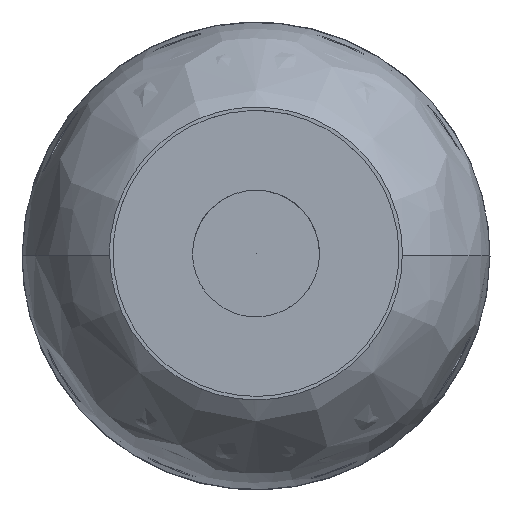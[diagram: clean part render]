
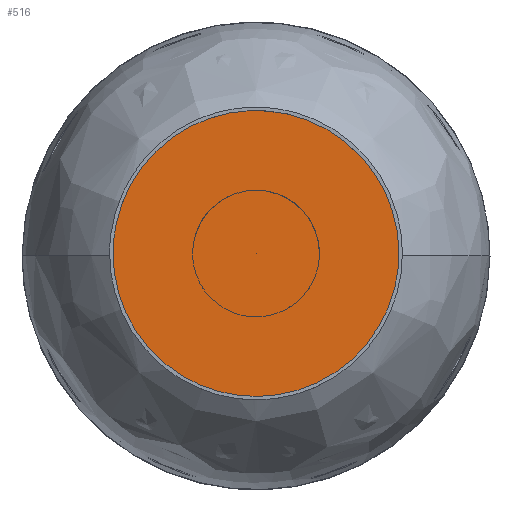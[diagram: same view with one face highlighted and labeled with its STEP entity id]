
A CAD part, top view. The second image highlights one B-rep face of the part: STEP entity #516.
In plain terms, the highlighted free-form (B-spline) face has degree [2, 1] with [9, 2] control points.
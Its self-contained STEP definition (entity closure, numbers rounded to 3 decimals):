
#182=B_SPLINE_CURVE_WITH_KNOTS('',1,(#9748,#9749),.UNSPECIFIED.,.F.,.F.,
(2,2),(82.621,144.621),.UNSPECIFIED.);
#516=ADVANCED_FACE('',(#778),#3344,.T.);
#778=FACE_OUTER_BOUND('',#1069,.T.);
#1069=EDGE_LOOP('',(#1955,#1956,#1957));
#1955=ORIENTED_EDGE('',*,*,#2543,.T.);
#1956=ORIENTED_EDGE('',*,*,#2534,.T.);
#1957=ORIENTED_EDGE('',*,*,#2534,.F.);
#2534=EDGE_CURVE('',#3196,#3195,#182,.T.);
#2543=EDGE_CURVE('',#3196,#3196,#2902,.T.);
#2902=(
BOUNDED_CURVE()
B_SPLINE_CURVE(2,(#9794,#9795,#9796,#9797,#9798,#9799,#9800,#9801,#9802),
 .UNSPECIFIED.,.T.,.F.)
B_SPLINE_CURVE_WITH_KNOTS((3,2,2,2,3),(0.,99.746,199.491,
299.237,398.982),.UNSPECIFIED.)
CURVE()
GEOMETRIC_REPRESENTATION_ITEM()
RATIONAL_B_SPLINE_CURVE((1.,0.707,1.,0.707,1.,0.707,
1.,0.707,1.))
REPRESENTATION_ITEM('')
);
#3195=VERTEX_POINT('',#9740);
#3196=VERTEX_POINT('',#9741);
#3344=(
BOUNDED_SURFACE()
B_SPLINE_SURFACE(2,1,((#9665,#9666),(#9667,#9668),(#9669,#9670),(#9671,
#9672),(#9673,#9674),(#9675,#9676),(#9677,#9678),(#9679,#9680),(#9681,#9682)),
 .UNSPECIFIED.,.T.,.F.,.F.)
B_SPLINE_SURFACE_WITH_KNOTS((3,2,2,2,3),(2,2),(0.,99.746,199.491,
299.237,398.982),(82.621,144.621),
 .UNSPECIFIED.)
GEOMETRIC_REPRESENTATION_ITEM()
RATIONAL_B_SPLINE_SURFACE(((1.,1.),(0.707,0.707),
(1.,1.),(0.707,0.707),(1.,1.),(0.707,
0.707),(1.,1.),(0.707,0.707),(1.,1.)))
REPRESENTATION_ITEM('')
SURFACE()
);
#9665=CARTESIAN_POINT('',(-62.,0.,-8.5));
#9666=CARTESIAN_POINT('',(0.,0.,-8.5));
#9667=CARTESIAN_POINT('',(-62.,-62.,-8.5));
#9668=CARTESIAN_POINT('',(0.,0.,-8.5));
#9669=CARTESIAN_POINT('',(0.,-62.,-8.5));
#9670=CARTESIAN_POINT('',(0.,0.,-8.5));
#9671=CARTESIAN_POINT('',(62.,-62.,-8.5));
#9672=CARTESIAN_POINT('',(0.,0.,-8.5));
#9673=CARTESIAN_POINT('',(62.,0.,-8.5));
#9674=CARTESIAN_POINT('',(0.,0.,-8.5));
#9675=CARTESIAN_POINT('',(62.,62.,-8.5));
#9676=CARTESIAN_POINT('',(0.,0.,-8.5));
#9677=CARTESIAN_POINT('',(0.,62.,-8.5));
#9678=CARTESIAN_POINT('',(0.,0.,-8.5));
#9679=CARTESIAN_POINT('',(-62.,62.,-8.5));
#9680=CARTESIAN_POINT('',(0.,0.,-8.5));
#9681=CARTESIAN_POINT('',(-62.,0.,-8.5));
#9682=CARTESIAN_POINT('',(0.,0.,-8.5));
#9740=CARTESIAN_POINT('',(0.,0.,-8.5));
#9741=CARTESIAN_POINT('',(-62.,0.,-8.5));
#9748=CARTESIAN_POINT('',(-62.,0.,-8.5));
#9749=CARTESIAN_POINT('',(0.,0.,-8.5));
#9794=CARTESIAN_POINT('',(-62.,0.,-8.5));
#9795=CARTESIAN_POINT('',(-62.,-62.,-8.5));
#9796=CARTESIAN_POINT('',(0.,-62.,-8.5));
#9797=CARTESIAN_POINT('',(62.,-62.,-8.5));
#9798=CARTESIAN_POINT('',(62.,0.,-8.5));
#9799=CARTESIAN_POINT('',(62.,62.,-8.5));
#9800=CARTESIAN_POINT('',(0.,62.,-8.5));
#9801=CARTESIAN_POINT('',(-62.,62.,-8.5));
#9802=CARTESIAN_POINT('',(-62.,0.,-8.5));
